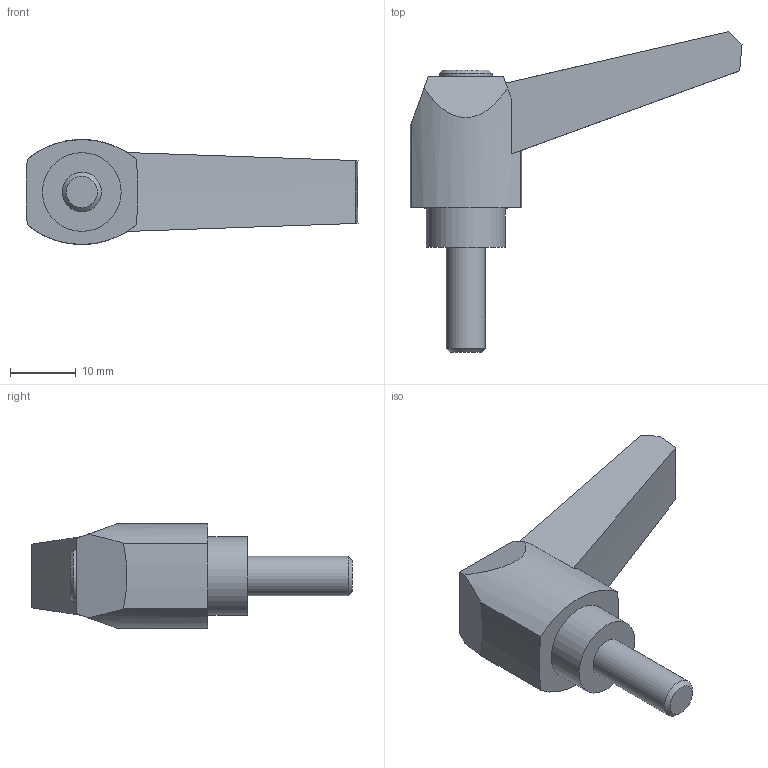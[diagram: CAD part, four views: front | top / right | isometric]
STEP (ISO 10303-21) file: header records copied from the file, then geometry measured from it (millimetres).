
FILE_DESCRIPTION( ( 'STEP AP203' ), '1' );
FILE_NAME( 'C:/Temp/Ganter_Step_05_03_2020/data/2_1/gn_500/gn_500_ms/Adjustable hand lever GN 500-42-M6-16-SW.stp', '2020-03-05T11:26:31', ( 'License CC BY-ND 4.0' ), ( 'CADENAS' ), ' ', 'PARTsolutions', ' ' );
FILE_SCHEMA( ( 'CONFIG_CONTROL_DESIGN' ) );
Length unit declared in the file: millimetre
Products named in the file (1): _Adjustable hand lever GN 500-42-M6-16-SW
Bounding box: 50.59 x 48.85 x 16 mm (x, y, z)
Volume: 8766.9 mm3; surface area: 3314.2 mm2
Topology: 1 solids, 1 shells, 24 faces, 56 edges, 37 vertices
Faces by surface type: plane 11, cylinder 7, cone 6
Full cylindrical faces by diameter (mm): 6 x1, 8 x1, 12 x1
Entity records: 708 total; most frequent: CARTESIAN_POINT 123, DIRECTION 118, ORIENTED_EDGE 100, EDGE_CURVE 50, AXIS2_PLACEMENT_3D 47, VERTEX_POINT 36, EDGE_LOOP 32, FACE_OUTER_BOUND 27
